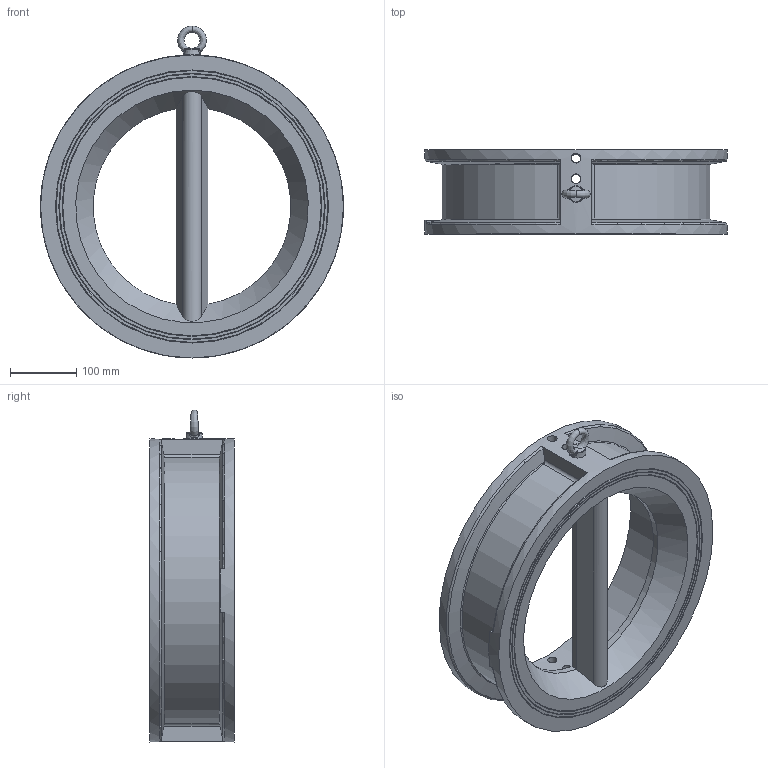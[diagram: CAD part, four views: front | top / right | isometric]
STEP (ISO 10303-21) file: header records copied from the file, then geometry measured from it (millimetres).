
FILE_DESCRIPTION (( 'STEP AP203' ), '1' );
FILE_NAME ('5306 DN350 ×°Åä PN25.STEP', '2026-05-09T01:14:43', ( '' ), ( '' ), 'SwSTEP 2.0', 'SolidWorks 2018', '' );
FILE_SCHEMA (( 'CONFIG_CONTROL_DESIGN' ));
Length unit declared in the file: millimetre
Products named in the file (3): 5306 DN350 概极 PN25; GB╱T 825-1988[吊环螺钉M10]_M10; 5306 DN350 蚾饜 PN25
Assembly tree (2 placements, depth 2):
  5306 DN350 蚾饜 PN25
    5306 DN350 概极 PN25
    GB╱T 825-1988[吊环螺钉M10]_M10
Bounding box: 456 x 127 x 499.6 mm (x, y, z)
Volume: 6465832.1 mm3; surface area: 596007.2 mm2
Topology: 2 solids, 2 shells, 99 faces, 246 edges, 149 vertices
Faces by surface type: cone 27, cylinder 22, plane 22, bspline 16, torus 12
Full cylindrical faces by diameter (mm): 8.5 x1, 10 x1, 14 x4, 14.6 x4, 15 x1, 360 x1, 456 x1
Entity records: 5650 total; most frequent: CARTESIAN_POINT 3443, ORIENTED_EDGE 368, DIRECTION 354, EDGE_CURVE 184, AXIS2_PLACEMENT_3D 164, EDGE_LOOP 157, VERTEX_POINT 133, FACE_OUTER_BOUND 115
